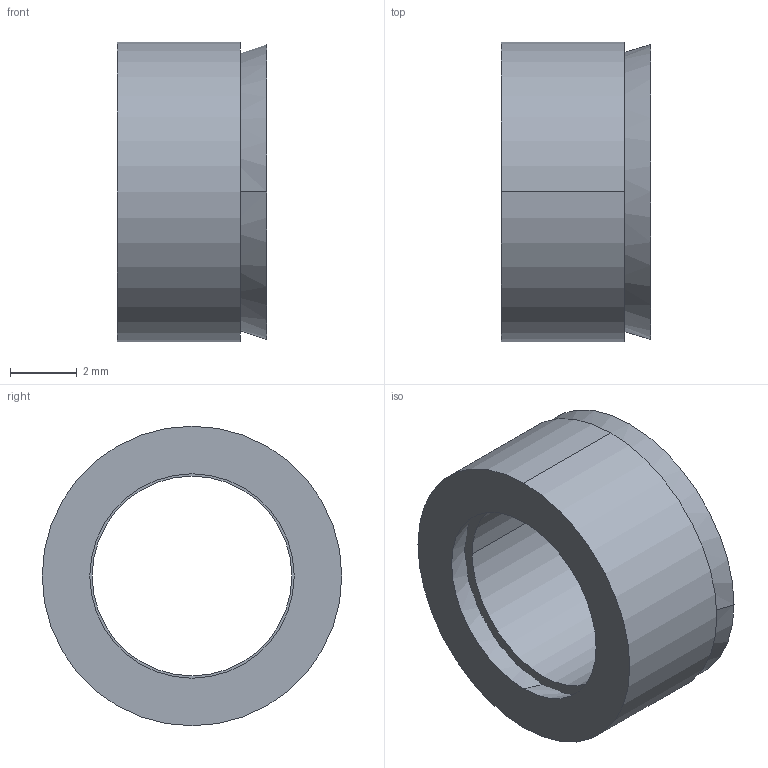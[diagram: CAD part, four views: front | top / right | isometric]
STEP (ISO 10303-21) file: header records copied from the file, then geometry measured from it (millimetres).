
FILE_DESCRIPTION (( 'STEP AP203' ), '1' );
FILE_NAME ('R-06-09.STEP', '2017-11-06T01:14:36', ( 'MYCOM' ), ( '' ), 'SwSTEP 2.0', 'SolidWorks 2015', '' );
FILE_SCHEMA (( 'CONFIG_CONTROL_DESIGN' ));
Length unit declared in the file: millimetre
Products named in the file (1): R-06-09
Bounding box: 4.5 x 9 x 9 mm (x, y, z)
Surface area: 438.8 mm2 (no closed solid volume)
Topology: 0 solids, 2 shells, 12 faces, 24 edges, 16 vertices
Faces by surface type: cone 4, cylinder 4, plane 4
Entity records: 406 total; most frequent: DIRECTION 66, CARTESIAN_POINT 53, ORIENTED_EDGE 48, AXIS2_PLACEMENT_3D 29, EDGE_CURVE 24, VERTEX_POINT 16, CIRCLE 16, EDGE_LOOP 16
